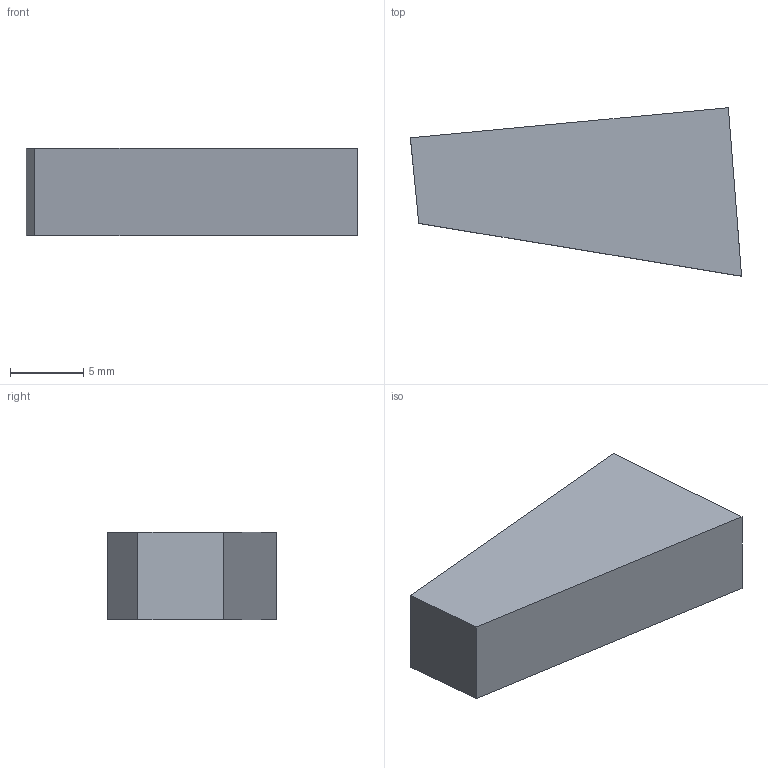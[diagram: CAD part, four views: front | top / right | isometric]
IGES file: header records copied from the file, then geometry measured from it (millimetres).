
Start section: SolidWorks IGES file using analytic representation for surfaces
Global section: file name: \\Ss-share1\share\030eins事業部\技術課\☆eins parts 量産図\3D\掴む\CHK-EMR-12(CHK-EMR-CPE)\web用データ\CHK-EMR-CPE\023443.IGS; native system: SolidWorks 2021; preprocessor: SolidWorks 2021; author: STAR089C; date: 220818.112322; units: millimetre
Bounding box: 22.66 x 11.53 x 6 mm (x, y, z)
Surface area: 1254.3 mm2 (no closed solid volume)
Topology: 0 solids, 0 shells, 16 faces, 72 edges, 72 vertices
Faces by surface type: bspline 16
